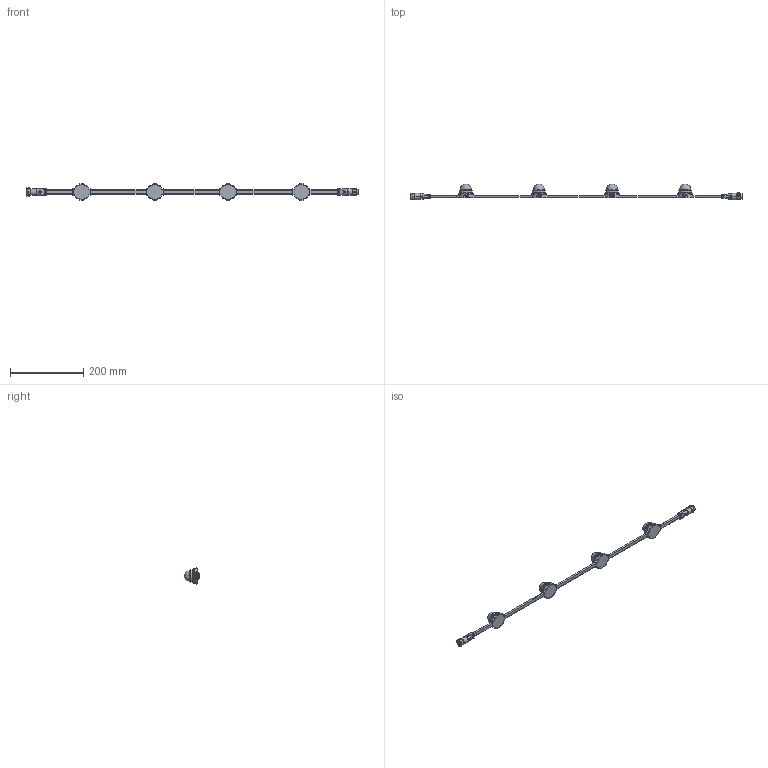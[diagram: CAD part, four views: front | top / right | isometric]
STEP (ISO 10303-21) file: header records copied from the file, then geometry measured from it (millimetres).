
FILE_DESCRIPTION (( 'STEP AP214' ), '1' );
FILE_NAME ('DiGi XT3 & 6 - Dome.STEP', '2025-08-28T06:49:57', ( '' ), ( '' ), 'SwSTEP 2.0', 'SolidWorks 2025', '' );
FILE_SCHEMA (( 'AUTOMOTIVE_DESIGN' ));
Length unit declared in the file: millimetre
Products named in the file (6): DiGi Module XT3 & 6 - Cover - Dome; DiGi Module XT3 & 6 - Body_XT6 RGBW; M16 3p Flat mold - Male; DiGi XT3 & 6 - Dome; Part9^DiGi XT3 & 6; M16 3p Flat mold - Female
Assembly tree (11 placements, depth 2):
  DiGi XT3 & 6 - Dome
    DiGi Module XT3 & 6 - Body_XT6 RGBW  x4
    Part9^DiGi XT3 & 6
    M16 3p Flat mold - Female
    M16 3p Flat mold - Male
    DiGi Module XT3 & 6 - Cover - Dome  x4
Bounding box: 907.71 x 43.45 x 43.79 mm (x, y, z)
Volume: 164797.7 mm3; surface area: 69867.7 mm2
Topology: 43 solids, 43 shells, 2827 faces, 6679 edges, 3859 vertices
Faces by surface type: bspline 1060, plane 702, cylinder 683, cone 196, sphere 128, torus 58
Full cylindrical faces by diameter (mm): 1.6 x3, 10.9 x1, 11.8 x1, 14.25 x1, 14.8 x1, 15.2 x1, 26.6 x4, 30 x4, 31.6 x4, 32 x4, 42 x4
Entity records: 90758 total; most frequent: CARTESIAN_POINT 53150, ORIENTED_EDGE 6234, DIRECTION 4496, EDGE_CURVE 3117, VERTEX_POINT 1872, AXIS2_PLACEMENT_3D 1758, EDGE_LOOP 1437, FACE_OUTER_BOUND 1374
